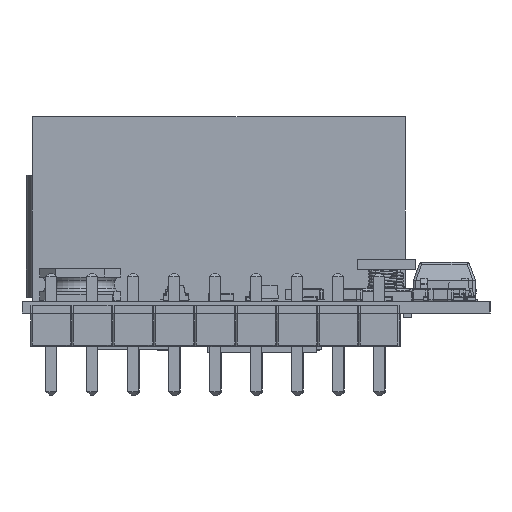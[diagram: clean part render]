
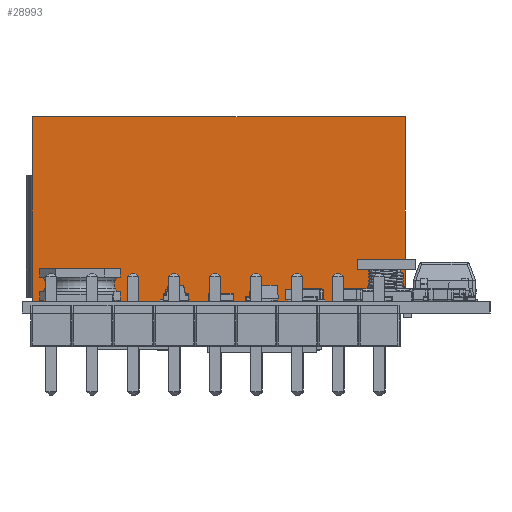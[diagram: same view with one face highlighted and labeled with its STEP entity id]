
A CAD part, left-side view. The second image highlights one B-rep face of the part: STEP entity #28993.
In plain terms, the highlighted planar face has unit normal (-1, 0, 0).
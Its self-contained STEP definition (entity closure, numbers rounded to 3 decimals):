
#19756=FACE_OUTER_BOUND($,#21834,.T.);
#21834=EDGE_LOOP($,(#31384,#31385,#31386,#31387));
#24290=AXIS2_PLACEMENT_3D($,#71792,#60968,$);
#27471=PLANE($,#24290);
#28993=ADVANCED_FACE($,(#19756),#27471,.T.);
#31384=ORIENTED_EDGE($,*,*,#41976,.T.);
#31385=ORIENTED_EDGE($,*,*,#41985,.T.);
#31386=ORIENTED_EDGE($,*,*,#41980,.F.);
#31387=ORIENTED_EDGE($,*,*,#41984,.F.);
#41976=EDGE_CURVE($,#56649,#56650,#51955,.T.);
#41980=EDGE_CURVE($,#56654,#56655,#51959,.T.);
#41984=EDGE_CURVE($,#56649,#56654,#51963,.T.);
#41985=EDGE_CURVE($,#56650,#56655,#51964,.T.);
#47280=VECTOR($,#60955,23.11);
#47284=VECTOR($,#60959,23.11);
#47288=VECTOR($,#60963,11.43);
#47289=VECTOR($,#60964,11.43);
#51955=LINE($,#71792,#47280);
#51959=LINE($,#71797,#47284);
#51963=LINE($,#71792,#47288);
#51964=LINE($,#71793,#47289);
#56649=VERTEX_POINT($,#71792);
#56650=VERTEX_POINT($,#71793);
#56654=VERTEX_POINT($,#71797);
#56655=VERTEX_POINT($,#71798);
#60955=DIRECTION($,(0.,1.,0.));
#60959=DIRECTION($,(0.,1.,0.));
#60963=DIRECTION($,(0.,0.,-1.));
#60964=DIRECTION($,(0.,0.,-1.));
#60968=DIRECTION($,(-1.,0.,0.));
#71792=CARTESIAN_POINT('',(-11.8,-11.555,11.43));
#71793=CARTESIAN_POINT('',(-11.8,11.555,11.43));
#71797=CARTESIAN_POINT('',(-11.8,-11.555,0.));
#71798=CARTESIAN_POINT('',(-11.8,11.555,0.));
